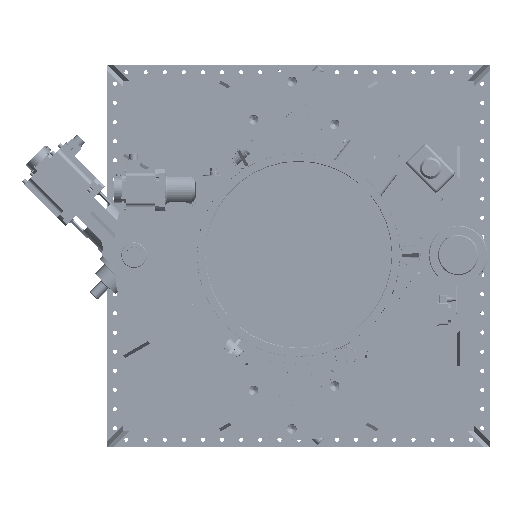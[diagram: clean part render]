
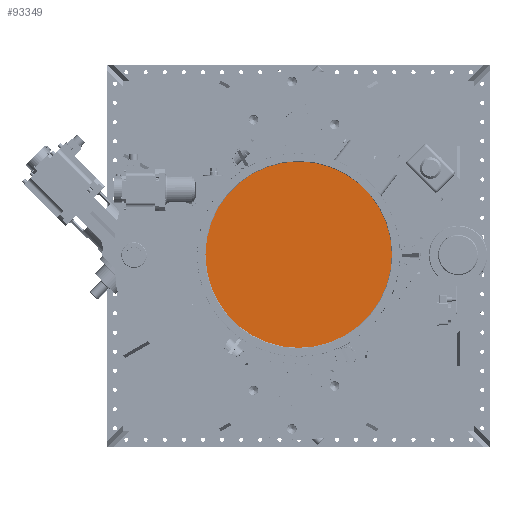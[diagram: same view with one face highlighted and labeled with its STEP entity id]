
A CAD part, top view. The second image highlights one B-rep face of the part: STEP entity #93349.
In plain terms, the highlighted planar face has unit normal (0, 0, 1).
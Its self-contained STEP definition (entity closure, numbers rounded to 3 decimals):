
#3121=PLANE('',#101483);
#7899=FACE_OUTER_BOUND('',#13379,.T.);
#13379=EDGE_LOOP('',(#73215));
#32319=CIRCLE('',#101218,292.1);
#39620=VERTEX_POINT('',#157001);
#51339=EDGE_CURVE('',#39620,#39620,#32319,.T.);
#73215=ORIENTED_EDGE('',*,*,#51339,.F.);
#93349=ADVANCED_FACE('',(#7899),#3121,.T.);
#101218=AXIS2_PLACEMENT_3D('',#157003,#121235,#121236);
#101483=AXIS2_PLACEMENT_3D('',#158215,#121872,#121873);
#121235=DIRECTION('center_axis',(0.,0.,
-1.));
#121236=DIRECTION('ref_axis',(-0.5,0.866,0.));
#121872=DIRECTION('center_axis',(0.,0.,
1.));
#121873=DIRECTION('ref_axis',(0.5,-0.866,0.));
#157001=CARTESIAN_POINT('',(146.05,-252.966,2383.65));
#157003=CARTESIAN_POINT('Origin',(0.,0.,
2383.65));
#158215=CARTESIAN_POINT('Origin',(0.,0.,
2383.65));
